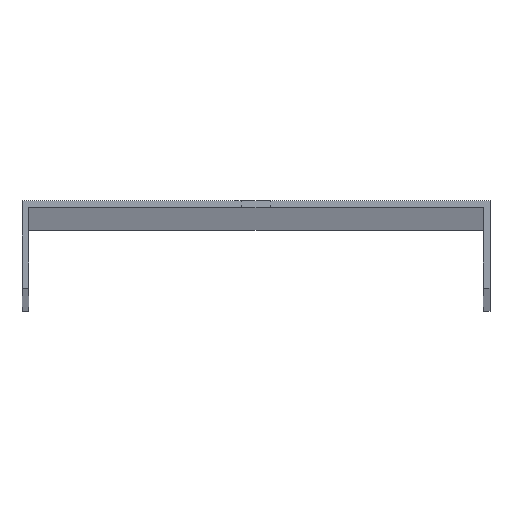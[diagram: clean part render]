
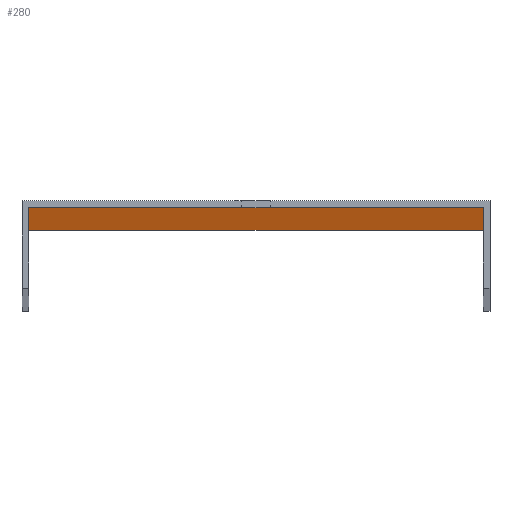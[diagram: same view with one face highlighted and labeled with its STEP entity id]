
A CAD part, top view. The second image highlights one B-rep face of the part: STEP entity #280.
In plain terms, the highlighted planar face has unit normal (0, -1, 0).
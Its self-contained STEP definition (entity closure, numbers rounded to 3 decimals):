
#7 = CARTESIAN_POINT ( 'NONE',  ( 52., -1.5, -1500. ) ) ;
#8 = VECTOR ( 'NONE', #65, 1000. ) ;
#15 = CARTESIAN_POINT ( 'NONE',  ( -3.25, -1.5, -1488. ) ) ;
#18 = ORIENTED_EDGE ( 'NONE', *, *, #155, .T. ) ;
#24 = LINE ( 'NONE', #106, #267 ) ;
#27 = DIRECTION ( 'NONE',  ( 0., -1., 0. ) ) ;
#29 = ORIENTED_EDGE ( 'NONE', *, *, #296, .T. ) ;
#32 = ORIENTED_EDGE ( 'NONE', *, *, #479, .T. ) ;
#33 = VECTOR ( 'NONE', #419, 1000. ) ;
#36 = LINE ( 'NONE', #63, #169 ) ;
#38 = ORIENTED_EDGE ( 'NONE', *, *, #501, .F. ) ;
#45 = DIRECTION ( 'NONE',  ( 0., 0., -1. ) ) ;
#53 = FACE_OUTER_BOUND ( 'NONE', #133, .T. ) ;
#56 = DIRECTION ( 'NONE',  ( 1., 0., 0. ) ) ;
#57 = VERTEX_POINT ( 'NONE', #161 ) ;
#59 = CARTESIAN_POINT ( 'NONE',  ( -3.25, -1.5, 1488. ) ) ;
#63 = CARTESIAN_POINT ( 'NONE',  ( -53.5, -1.5, 1488. ) ) ;
#65 = DIRECTION ( 'NONE',  ( -1., 0., 0. ) ) ;
#79 = VERTEX_POINT ( 'NONE', #118 ) ;
#86 = VECTOR ( 'NONE', #45, 1000. ) ;
#96 = LINE ( 'NONE', #323, #316 ) ;
#97 = AXIS2_PLACEMENT_3D ( 'NONE', #101, #27, #289 ) ;
#101 = CARTESIAN_POINT ( 'NONE',  ( -53.5, -1.5, 1500. ) ) ;
#102 = VECTOR ( 'NONE', #542, 1000. ) ;
#106 = CARTESIAN_POINT ( 'NONE',  ( -53.5, -1.5, -1479. ) ) ;
#107 = VERTEX_POINT ( 'NONE', #426 ) ;
#111 = EDGE_LOOP ( 'NONE', ( #523, #319, #38, #488 ) ) ;
#112 = CARTESIAN_POINT ( 'NONE',  ( -53.5, -1.5, 1500. ) ) ;
#118 = CARTESIAN_POINT ( 'NONE',  ( 3.25, -1.5, -1488. ) ) ;
#120 = ORIENTED_EDGE ( 'NONE', *, *, #137, .T. ) ;
#124 = DIRECTION ( 'NONE',  ( -1., 0., 0. ) ) ;
#133 = EDGE_LOOP ( 'NONE', ( #534, #304, #313, #18 ) ) ;
#137 = EDGE_CURVE ( 'NONE', #273, #417, #499, .T. ) ;
#141 = FACE_BOUND ( 'NONE', #143, .T. ) ;
#143 = EDGE_LOOP ( 'NONE', ( #32, #120, #29, #465 ) ) ;
#151 = LINE ( 'NONE', #334, #482 ) ;
#155 = EDGE_CURVE ( 'NONE', #404, #427, #544, .T. ) ;
#161 = CARTESIAN_POINT ( 'NONE',  ( 3.25, -1.5, 1488. ) ) ;
#169 = VECTOR ( 'NONE', #236, 1000. ) ;
#196 = DIRECTION ( 'NONE',  ( 1., 0., 0. ) ) ;
#226 = LINE ( 'NONE', #409, #33 ) ;
#232 = VERTEX_POINT ( 'NONE', #255 ) ;
#236 = DIRECTION ( 'NONE',  ( -1., 0., 0. ) ) ;
#239 = DIRECTION ( 'NONE',  ( 0., 0., -1. ) ) ;
#251 = VERTEX_POINT ( 'NONE', #7 ) ;
#255 = CARTESIAN_POINT ( 'NONE',  ( 3.25, -1.5, 1479. ) ) ;
#257 = CARTESIAN_POINT ( 'NONE',  ( -52., -1.5, -1500. ) ) ;
#260 = VECTOR ( 'NONE', #124, 1000. ) ;
#261 = CARTESIAN_POINT ( 'NONE',  ( -52., -1.5, 1500. ) ) ;
#267 = VECTOR ( 'NONE', #196, 1000. ) ;
#272 = CARTESIAN_POINT ( 'NONE',  ( 3.25, -1.5, 1500. ) ) ;
#273 = VERTEX_POINT ( 'NONE', #15 ) ;
#274 = LINE ( 'NONE', #315, #102 ) ;
#280 = ADVANCED_FACE ( 'NONE', ( #318, #53, #141 ), #322, .T. ) ;
#289 = DIRECTION ( 'NONE',  ( 0., 0., -1. ) ) ;
#296 = EDGE_CURVE ( 'NONE', #417, #364, #24, .T. ) ;
#302 = CARTESIAN_POINT ( 'NONE',  ( -52., -1.5, 1500. ) ) ;
#304 = ORIENTED_EDGE ( 'NONE', *, *, #536, .F. ) ;
#305 = CARTESIAN_POINT ( 'NONE',  ( -3.25, -1.5, 1500. ) ) ;
#310 = VECTOR ( 'NONE', #585, 1000. ) ;
#313 = ORIENTED_EDGE ( 'NONE', *, *, #324, .T. ) ;
#315 = CARTESIAN_POINT ( 'NONE',  ( -53.5, -1.5, -1488. ) ) ;
#316 = VECTOR ( 'NONE', #413, 1000. ) ;
#317 = DIRECTION ( 'NONE',  ( 0., 0., 1. ) ) ;
#318 = FACE_BOUND ( 'NONE', #111, .T. ) ;
#319 = ORIENTED_EDGE ( 'NONE', *, *, #371, .F. ) ;
#322 = PLANE ( 'NONE',  #97 ) ;
#323 = CARTESIAN_POINT ( 'NONE',  ( 52., -1.5, 1500. ) ) ;
#324 = EDGE_CURVE ( 'NONE', #505, #404, #338, .T. ) ;
#334 = CARTESIAN_POINT ( 'NONE',  ( -3.25, -1.5, 1500. ) ) ;
#338 = LINE ( 'NONE', #112, #8 ) ;
#364 = VERTEX_POINT ( 'NONE', #477 ) ;
#371 = EDGE_CURVE ( 'NONE', #57, #494, #36, .T. ) ;
#373 = LINE ( 'NONE', #272, #520 ) ;
#376 = CARTESIAN_POINT ( 'NONE',  ( -53.5, -1.5, 1479. ) ) ;
#387 = EDGE_CURVE ( 'NONE', #494, #107, #151, .T. ) ;
#389 = LINE ( 'NONE', #525, #260 ) ;
#403 = EDGE_CURVE ( 'NONE', #251, #427, #389, .T. ) ;
#404 = VERTEX_POINT ( 'NONE', #302 ) ;
#409 = CARTESIAN_POINT ( 'NONE',  ( 3.25, -1.5, 1500. ) ) ;
#413 = DIRECTION ( 'NONE',  ( 0., 0., -1. ) ) ;
#417 = VERTEX_POINT ( 'NONE', #532 ) ;
#419 = DIRECTION ( 'NONE',  ( 0., 0., -1. ) ) ;
#426 = CARTESIAN_POINT ( 'NONE',  ( -3.25, -1.5, 1479. ) ) ;
#427 = VERTEX_POINT ( 'NONE', #257 ) ;
#457 = EDGE_CURVE ( 'NONE', #364, #79, #226, .T. ) ;
#465 = ORIENTED_EDGE ( 'NONE', *, *, #457, .T. ) ;
#467 = CARTESIAN_POINT ( 'NONE',  ( 52., -1.5, 1500. ) ) ;
#477 = CARTESIAN_POINT ( 'NONE',  ( 3.25, -1.5, -1479. ) ) ;
#479 = EDGE_CURVE ( 'NONE', #79, #273, #274, .T. ) ;
#482 = VECTOR ( 'NONE', #239, 1000. ) ;
#488 = ORIENTED_EDGE ( 'NONE', *, *, #519, .F. ) ;
#494 = VERTEX_POINT ( 'NONE', #59 ) ;
#499 = LINE ( 'NONE', #305, #310 ) ;
#501 = EDGE_CURVE ( 'NONE', #232, #57, #373, .T. ) ;
#502 = LINE ( 'NONE', #376, #508 ) ;
#505 = VERTEX_POINT ( 'NONE', #467 ) ;
#508 = VECTOR ( 'NONE', #56, 1000. ) ;
#519 = EDGE_CURVE ( 'NONE', #107, #232, #502, .T. ) ;
#520 = VECTOR ( 'NONE', #317, 1000. ) ;
#523 = ORIENTED_EDGE ( 'NONE', *, *, #387, .F. ) ;
#525 = CARTESIAN_POINT ( 'NONE',  ( -53.5, -1.5, -1500. ) ) ;
#532 = CARTESIAN_POINT ( 'NONE',  ( -3.25, -1.5, -1479. ) ) ;
#534 = ORIENTED_EDGE ( 'NONE', *, *, #403, .F. ) ;
#536 = EDGE_CURVE ( 'NONE', #505, #251, #96, .T. ) ;
#542 = DIRECTION ( 'NONE',  ( -1., 0., 0. ) ) ;
#544 = LINE ( 'NONE', #261, #86 ) ;
#585 = DIRECTION ( 'NONE',  ( 0., 0., 1. ) ) ;
